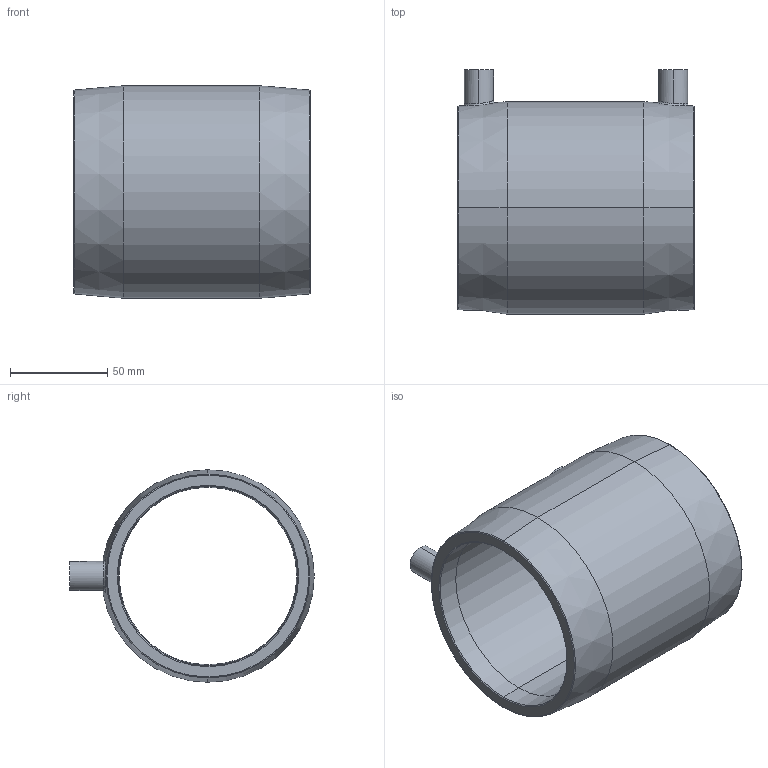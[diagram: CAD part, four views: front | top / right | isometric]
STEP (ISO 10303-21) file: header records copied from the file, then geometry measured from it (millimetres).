
FILE_DESCRIPTION (( 'STEP AP214' ), '1' );
FILE_NAME ('CBKHA90.STEP', '2018-09-19T14:07:13', ( '' ), ( '' ), 'SwSTEP 2.0', 'SolidWorks 2017', '' );
FILE_SCHEMA (( 'AUTOMOTIVE_DESIGN' ));
Length unit declared in the file: millimetre
Products named in the file (1): CBKHA90
Bounding box: 122 x 125.94 x 109.5 mm (x, y, z)
Volume: 328964.9 mm3; surface area: 83594.7 mm2
Topology: 1 solids, 1 shells, 70 faces, 144 edges, 84 vertices
Faces by surface type: cone 24, cylinder 20, torus 12, plane 10, bspline 4
Entity records: 2849 total; most frequent: CARTESIAN_POINT 1192, DIRECTION 354, ORIENTED_EDGE 288, AXIS2_PLACEMENT_3D 155, EDGE_CURVE 144, CIRCLE 88, VERTEX_POINT 84, EDGE_LOOP 80
